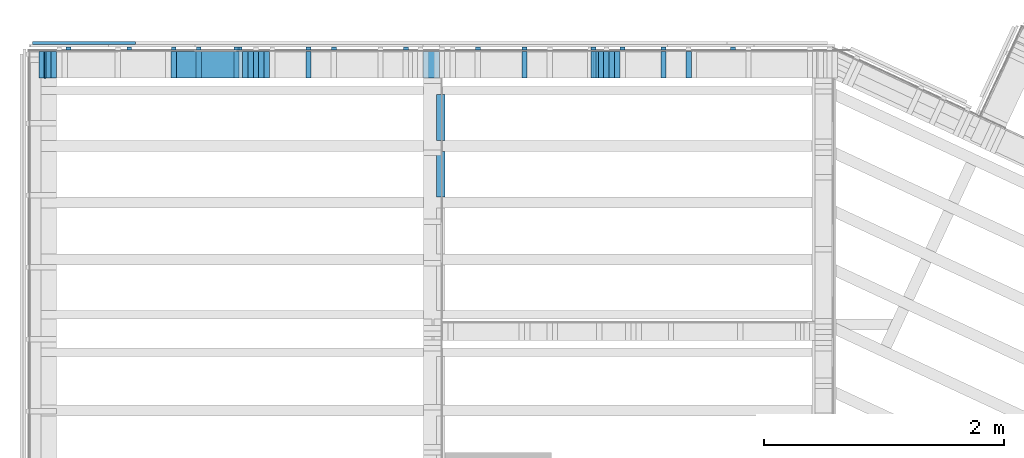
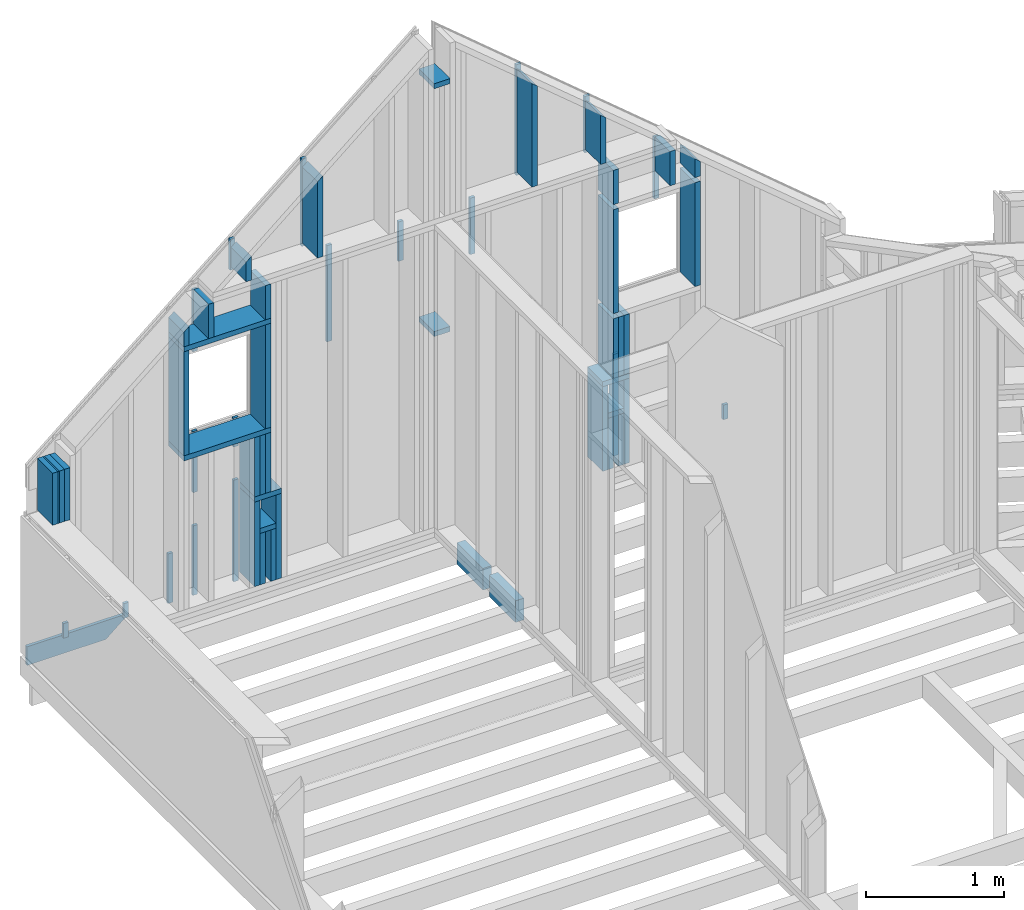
# One storey, part 19 of 24: 61 members.
"""IFC2X3 building model written with IfcOpenShell, lengths in metres."""

from ifc_helpers import new_model, si_unit, direction, frame, origin_with_axes, place, context, subcontext, project, spatial, faceted_brep, material, element, save


model = new_model("IFC2X3")

# Units and contexts
model_context = context("Model", 3, precision=1e-06, world=origin_with_axes(), true_north=direction((0.0, 1.0, 0.0)))
body_context = subcontext(model_context, "Body", "Model", "MODEL_VIEW")
ifc_project = project(units=[si_unit("LENGTHUNIT", "METRE"), si_unit("AREAUNIT", "SQUARE_METRE"), si_unit("VOLUMEUNIT", "CUBIC_METRE"), si_unit("PLANEANGLEUNIT", "RADIAN")], contexts=[model_context])

# Site, building, storey
site_placement = place(None, origin_with_axes())
site = spatial("IfcSite", under=ifc_project, at=site_placement, CompositionType="ELEMENT")
building_placement = place(site_placement, origin_with_axes())
building = spatial("IfcBuilding", under=site, at=building_placement, Name="Building 1", CompositionType="ELEMENT")
storey_placement = place(building_placement, origin_with_axes())
storey = spatial("IfcBuildingStorey", under=building, at=storey_placement, Name="Premier Etage", CompositionType="ELEMENT", Elevation=0.0)

# Members
ifc_material_1 = material(Name="NH II")
member_1_placement = place(storey_placement, frame((3.433, 7.537, 2.709), z_axis=(0.0, 0.0, -1.0), x_axis=(0.0, -1.0, 0.0)))
element("IfcMember", 1, at=member_1_placement, inside=storey, material=ifc_material_1, Name="Solive", context=body_context, shape_type="Brep", body=[
    faceted_brep([(0.3809456, 0.035, -0.096), (0.3809456, 0.035, 0.096), (0.3809456, -0.035, 0.096), (0.3809456, -0.035, -0.096), (0.0, 0.035, 0.096), (0.0, -0.035, 0.096), (0.0, 0.035, -0.096), (0.0, -0.035, -0.096)], [[[0, 1, 2, 3]], [[2, 1, 4, 5]], [[1, 0, 6, 4]], [[0, 3, 7, 6]], [[3, 2, 5, 7]], [[7, 5, 4, 6]]]),
])
member_2_placement = place(storey_placement, frame((0.032, 7.9675, 2.7225), z_axis=(0.0, 0.0, -1.0), x_axis=(1.0, 0.0, 0.0)))
element("IfcMember", 2, at=member_2_placement, inside=storey, material=ifc_material_1, Name="contre poutre", context=body_context, shape_type="Brep", body=[
    faceted_brep([(0.8586597, 0.0135, -0.0825), (0.6620204, 0.0135, 0.0825), (0.6620204, -0.0135, 0.0825), (0.8586597, -0.0135, -0.0825), (0.0, 0.0135, 0.0825), (0.0, -0.0135, 0.0825), (0.0, 0.0135, -0.0825), (0.0, -0.0135, -0.0825)], [[[0, 1, 2, 3]], [[2, 1, 4, 5]], [[1, 0, 6, 4]], [[0, 3, 7, 6]], [[4, 6, 7, 5]], [[3, 2, 5, 7]]]),
])
ifc_material_2 = material(Name="Epicéa C24")
member_3_placement = place(storey_placement, frame((4.949, 7.921, 3.7126531), z_axis=(0.0, 1.0, 0.0), x_axis=(0.0, 0.0, -1.0)))
element("IfcMember", 3, at=member_3_placement, inside=storey, material=ifc_material_2, Name="latte 27/40", context=body_context, shape_type="Brep", body=[
    faceted_brep([(0.0, 0.02, -0.012), (0.0, -0.02, -0.012), (0.0, -0.02, 0.012), (0.0, 0.02, 0.012), (0.9026531, -0.02, -0.012), (0.9026531, -0.02, 0.012), (0.9026531, 0.02, -0.012), (0.9026531, 0.02, 0.012)], [[[0, 1, 2, 3]], [[2, 1, 4, 5]], [[1, 0, 6, 4]], [[6, 7, 5, 4]], [[3, 2, 5, 7]], [[0, 3, 7, 6]]]),
])
member_4_placement = place(storey_placement, frame((1.9165, 7.786, 5.2085), z_axis=(0.0, 1.0, 0.0), x_axis=(-1.0, 0.0, 0.0)))
element("IfcMember", 4, at=member_4_placement, inside=storey, material=ifc_material_2, Name="Montant", context=body_context, shape_type="Brep", body=[
    faceted_brep([(0.73, -0.0225, -0.11), (0.73, 0.0225, -0.11), (0.73, 0.0225, 0.11), (0.73, -0.0225, 0.11), (0.0, 0.0225, 0.11), (0.0, -0.0225, 0.11), (0.0, 0.0225, -0.11), (0.0, -0.0225, -0.11)], [[[0, 1, 2, 3]], [[3, 2, 4, 5]], [[2, 1, 6, 4]], [[6, 7, 5, 4]], [[0, 3, 5, 7]], [[1, 0, 7, 6]]]),
])
member_5_placement = place(storey_placement, frame((0.1075, 7.786, 4.4950187), z_axis=(0.0, 1.0, 0.0), x_axis=(0.0, 0.0, -1.0)))
element("IfcMember", 5, at=member_5_placement, inside=storey, material=ifc_material_2, Name="Montant", context=body_context, shape_type="Brep", body=[
    faceted_brep([(0.0, 0.0225, -0.11), (0.0, -0.0225, -0.11), (0.0, -0.0225, 0.11), (0.0, 0.0225, 0.11), (0.4622036, -0.0225, -0.11), (0.4622036, -0.0225, 0.11), (0.4622036, 0.0225, -0.11), (0.4622036, 0.0225, 0.11)], [[[0, 1, 2, 3]], [[2, 1, 4, 5]], [[1, 0, 6, 4]], [[0, 3, 7, 6]], [[3, 2, 5, 7]], [[4, 6, 7, 5]]]),
])
member_6_placement = place(storey_placement, frame((3.433, 7.0640544, 2.709), z_axis=(0.0, 0.0, -1.0), x_axis=(0.0, -1.0, 0.0)))
element("IfcMember", 6, at=member_6_placement, inside=storey, material=ifc_material_1, Name="Solive", context=body_context, shape_type="Brep", body=[
    faceted_brep([(0.3809456, 0.035, -0.096), (0.3809456, 0.035, 0.096), (0.3809456, -0.035, 0.096), (0.3809456, -0.035, -0.096), (0.0, 0.035, 0.096), (0.0, -0.035, 0.096), (0.0, 0.035, -0.096), (0.0, -0.035, -0.096)], [[[0, 1, 2, 3]], [[2, 1, 4, 5]], [[1, 0, 6, 4]], [[0, 3, 7, 6]], [[3, 2, 5, 7]], [[7, 5, 4, 6]]]),
])
member_7_placement = place(storey_placement, frame((1.759, 7.921, 4.263), z_axis=(0.0, 1.0, 0.0), x_axis=(0.0, 0.0, -1.0)))
element("IfcMember", 7, at=member_7_placement, inside=storey, material=ifc_material_2, Name="latte 27/40", context=body_context, shape_type="Brep", body=[
    faceted_brep([(0.0, 0.02, -0.012), (0.0, -0.02, -0.012), (0.0, -0.02, 0.012), (0.0, 0.02, 0.012), (0.2557014, -0.02, -0.012), (0.2557014, -0.02, 0.012), (0.2557014, 0.02, -0.012), (0.2557014, 0.02, 0.012)], [[[0, 1, 2, 3]], [[2, 1, 4, 5]], [[1, 0, 6, 4]], [[6, 7, 5, 4]], [[3, 2, 5, 7]], [[0, 3, 7, 6]]]),
])
member_8_placement = place(storey_placement, frame((4.1312452, 7.921, 6.5689307), z_axis=(0.0, 1.0, 0.0), x_axis=(0.0, 0.0, -1.0)))
element("IfcMember", 8, at=member_8_placement, inside=storey, material=ifc_material_2, Name="latte 27/40", context=body_context, shape_type="Brep", body=[
    faceted_brep([(0.9834594, 0.02, -0.012), (0.9834594, 0.02, 0.012), (0.9834594, -0.02, 0.012), (0.9834594, -0.02, -0.012), (0.0, 0.02, 0.012), (0.0, 0.02, -0.012), (0.0, -0.02, -0.012), (0.0, -0.02, 0.012)], [[[0, 1, 2, 3]], [[4, 5, 6, 7]], [[3, 6, 5, 0]], [[2, 7, 6, 3]], [[1, 4, 7, 2]], [[0, 5, 4, 1]]]),
])
member_9_placement = place(storey_placement, frame((1.209, 7.921, 3.2511483), z_axis=(0.0, 1.0, 0.0), x_axis=(0.0, 0.0, -1.0)))
element("IfcMember", 9, at=member_9_placement, inside=storey, material=ifc_material_2, Name="latte 27/40", context=body_context, shape_type="Brep", body=[
    faceted_brep([(0.0, 0.02, -0.012), (0.0, -0.02, -0.012), (0.0, -0.02, 0.012), (0.0, 0.02, 0.012), (0.4411483, -0.02, -0.012), (0.4411483, -0.02, 0.012), (0.4411483, 0.02, -0.012), (0.4411483, 0.02, 0.012)], [[[0, 1, 2, 3]], [[2, 1, 4, 5]], [[1, 0, 6, 4]], [[6, 7, 5, 4]], [[3, 2, 5, 7]], [[0, 3, 7, 6]]]),
])
member_10_placement = place(storey_placement, frame((4.724, 7.786, 3.645661), z_axis=(0.0, 1.0, 0.0), x_axis=(0.0, 0.0, -1.0)))
element("IfcMember", 10, at=member_10_placement, inside=storey, material=ifc_material_2, Name="Montant", context=body_context, shape_type="Brep", body=[
    faceted_brep([(0.0, -0.0225, -0.11), (0.0, -0.0225, 0.11), (0.0, 0.0225, 0.11), (0.0, 0.0225, -0.11), (0.750661, 0.0225, -0.11), (0.750661, -0.0225, -0.11), (0.750661, -0.0225, 0.11), (0.750661, 0.0225, 0.11)], [[[0, 1, 2, 3]], [[0, 3, 4, 5]], [[1, 0, 5, 6]], [[2, 1, 6, 7]], [[5, 4, 7, 6]], [[3, 2, 7, 4]]]),
])
member_11_placement = place(storey_placement, frame((4.7067452, 7.921, 6.0860288), z_axis=(0.0, 1.0, 0.0), x_axis=(0.0, 0.0, -1.0)))
element("IfcMember", 11, at=member_11_placement, inside=storey, material=ifc_material_2, Name="latte 27/40", context=body_context, shape_type="Brep", body=[
    faceted_brep([(0.5005575, 0.02, -0.012), (0.5005575, 0.02, 0.012), (0.5005575, -0.02, 0.012), (0.5005575, -0.02, -0.012), (0.0, 0.02, 0.012), (0.0, 0.02, -0.012), (0.0, -0.02, -0.012), (0.0, -0.02, 0.012)], [[[0, 1, 2, 3]], [[4, 5, 6, 7]], [[3, 6, 5, 0]], [[2, 7, 6, 3]], [[1, 4, 7, 2]], [[0, 5, 4, 1]]]),
])
member_12_placement = place(storey_placement, frame((2.3312452, 7.786, 6.3399786), z_axis=(0.0, 1.0, 0.0), x_axis=(0.0, 0.0, -1.0)))
element("IfcMember", 12, at=member_12_placement, inside=storey, material=ifc_material_2, Name="Montant", context=body_context, shape_type="Brep", body=[
    faceted_brep([(0.0, -0.0225, 0.11), (0.0, -0.0225, -0.11), (0.7145073, -0.0225, -0.11), (0.7145073, -0.0225, 0.11), (0.0377595, 0.0225, 0.11), (0.7145073, 0.0225, 0.11), (0.0377595, 0.0225, -0.11), (0.7145073, 0.0225, -0.11)], [[[0, 1, 2, 3]], [[4, 0, 3, 5]], [[6, 4, 5, 7]], [[1, 6, 7, 2]], [[1, 0, 4, 6]], [[2, 7, 5, 3]]]),
])
member_13_placement = place(storey_placement, frame((1.209, 7.786, 5.3983031), z_axis=(0.0, 1.0, 0.0), x_axis=(0.0, 0.0, -1.0)))
element("IfcMember", 13, at=member_13_placement, inside=storey, material=ifc_material_2, Name="Montant", context=body_context, shape_type="Brep", body=[
    faceted_brep([(0.0, -0.0225, 0.11), (0.0, -0.0225, -0.11), (0.1673031, -0.0225, -0.11), (0.1673031, -0.0225, 0.11), (0.0377595, 0.0225, -0.11), (0.1673031, 0.0225, -0.11), (0.0377595, 0.0225, 0.11), (0.1673031, 0.0225, 0.11)], [[[0, 1, 2, 3]], [[1, 4, 5, 2]], [[4, 6, 7, 5]], [[2, 5, 7, 3]], [[6, 0, 3, 7]], [[0, 6, 4, 1]]]),
])
member_14_placement = place(storey_placement, frame((2.3312452, 7.921, 6.3630602), z_axis=(0.0, 1.0, 0.0), x_axis=(0.0, 0.0, -1.0)))
element("IfcMember", 14, at=member_14_placement, inside=storey, material=ifc_material_2, Name="latte 27/40", context=body_context, shape_type="Brep", body=[
    faceted_brep([(0.7775889, 0.02, -0.012), (0.7775889, 0.02, 0.012), (0.7775889, -0.02, 0.012), (0.7775889, -0.02, -0.012), (0.0, 0.02, 0.012), (0.0, 0.02, -0.012), (0.0, -0.02, -0.012), (0.0, -0.02, 0.012)], [[[0, 1, 2, 3]], [[4, 5, 6, 7]], [[3, 6, 5, 0]], [[2, 7, 6, 3]], [[1, 4, 7, 2]], [[0, 5, 4, 1]]]),
])
member_15_placement = place(storey_placement, frame((4.769, 7.786, 3.350661), z_axis=(0.0, 1.0, 0.0), x_axis=(0.0, 0.0, -1.0)))
element("IfcMember", 15, at=member_15_placement, inside=storey, material=ifc_material_2, Name="Montant", context=body_context, shape_type="Brep", body=[
    faceted_brep([(0.0, -0.0225, -0.11), (0.0, -0.0225, 0.11), (0.0, 0.0225, 0.11), (0.0, 0.0225, -0.11), (0.455661, 0.0225, -0.11), (0.455661, -0.0225, -0.11), (0.455661, -0.0225, 0.11), (0.455661, 0.0225, 0.11)], [[[0, 1, 2, 3]], [[0, 3, 4, 5]], [[1, 0, 5, 6]], [[5, 4, 7, 6]], [[3, 2, 7, 4]], [[2, 1, 6, 7]]]),
])
member_16_placement = place(storey_placement, frame((1.804, 7.786, 4.218), z_axis=(0.0, 1.0, 0.0), x_axis=(0.0, 0.0, -1.0)))
element("IfcMember", 16, at=member_16_placement, inside=storey, material=ifc_material_2, Name="Montant", context=body_context, shape_type="Brep", body=[
    faceted_brep([(0.527339, 0.0225, -0.11), (0.527339, 0.0225, 0.11), (0.527339, -0.0225, 0.11), (0.527339, -0.0225, -0.11), (0.0, 0.0225, 0.11), (0.0, -0.0225, 0.11), (0.0, 0.0225, -0.11), (0.0, -0.0225, -0.11)], [[[0, 1, 2, 3]], [[2, 1, 4, 5]], [[1, 0, 6, 4]], [[0, 3, 7, 6]], [[3, 2, 5, 7]], [[5, 4, 6, 7]]]),
])
member_17_placement = place(storey_placement, frame((1.9615, 7.786, 3.373161), z_axis=(0.0, 1.0, 0.0), x_axis=(-1.0, 0.0, 0.0)))
element("IfcMember", 17, at=member_17_placement, inside=storey, material=ifc_material_2, Name="Montant", context=body_context, shape_type="Brep", body=[
    faceted_brep([(0.0, -0.0225, 0.11), (0.0, 0.0225, 0.11), (0.0, 0.0225, -0.11), (0.0, -0.0225, -0.11), (0.135, 0.0225, 0.11), (0.135, 0.0225, -0.11), (0.135, -0.0225, 0.11), (0.135, -0.0225, -0.11)], [[[0, 1, 2, 3]], [[2, 1, 4, 5]], [[1, 0, 6, 4]], [[7, 5, 4, 6]], [[0, 3, 7, 6]], [[3, 2, 5, 7]]]),
])
member_18_placement = place(storey_placement, frame((1.4174707, 7.786, 5.5354713), z_axis=(0.0, 1.0, 0.0), x_axis=(0.0, 0.0, -1.0)))
element("IfcMember", 18, at=member_18_placement, inside=storey, material=ifc_material_2, Name="Montant", context=body_context, shape_type="Brep", body=[
    faceted_brep([(0.0, 0.0225, -0.11), (0.0, -0.0225, -0.11), (0.0, -0.0225, 0.11), (0.0, 0.0225, 0.11), (0.3044713, -0.0225, -0.11), (0.3044713, -0.0225, 0.11), (0.3044713, 0.0225, -0.11), (0.3044713, 0.0225, 0.11)], [[[0, 1, 2, 3]], [[2, 1, 4, 5]], [[1, 0, 6, 4]], [[0, 3, 7, 6]], [[3, 2, 5, 7]], [[6, 7, 5, 4]]]),
])
member_19_placement = place(storey_placement, frame((0.136, 7.786, 4.4950187), z_axis=(0.0, 1.0, 0.0), x_axis=(0.0, 0.0, -1.0)))
element("IfcMember", 19, at=member_19_placement, inside=storey, material=ifc_material_2, Name="Montant", context=body_context, shape_type="Brep", body=[
    faceted_brep([(0.0, 0.006, 0.11), (0.0, 0.006, -0.11), (0.0, -0.006, -0.11), (0.0, -0.006, 0.11), (0.4622036, 0.006, -0.11), (0.4622036, -0.006, -0.11), (0.4622036, 0.006, 0.11), (0.4622036, -0.006, 0.11)], [[[0, 1, 2, 3]], [[2, 1, 4, 5]], [[1, 0, 6, 4]], [[4, 6, 7, 5]], [[0, 3, 7, 6]], [[3, 2, 5, 7]]]),
])
member_20_placement = place(storey_placement, frame((2.0065, 7.786, 3.668161), z_axis=(0.0, 1.0, 0.0), x_axis=(-1.0, 0.0, 0.0)))
element("IfcMember", 20, at=member_20_placement, inside=storey, material=ifc_material_2, Name="Montant", context=body_context, shape_type="Brep", body=[
    faceted_brep([(0.225, -0.0225, -0.11), (0.225, 0.0225, -0.11), (0.225, 0.0225, 0.11), (0.225, -0.0225, 0.11), (0.0, 0.0225, 0.11), (0.0, -0.0225, 0.11), (0.0, 0.0225, -0.11), (0.0, -0.0225, -0.11)], [[[0, 1, 2, 3]], [[3, 2, 4, 5]], [[2, 1, 6, 4]], [[6, 7, 5, 4]], [[0, 3, 5, 7]], [[1, 0, 7, 6]]]),
])
member_21_placement = place(storey_placement, frame((1.939, 7.786, 3.350661), z_axis=(0.0, 1.0, 0.0), x_axis=(0.0, 0.0, -1.0)))
element("IfcMember", 21, at=member_21_placement, inside=storey, material=ifc_material_2, Name="Montant", context=body_context, shape_type="Brep", body=[
    faceted_brep([(0.0, -0.0225, -0.11), (0.0, -0.0225, 0.11), (0.0, 0.0225, 0.11), (0.0, 0.0225, -0.11), (0.455661, 0.0225, -0.11), (0.455661, -0.0225, -0.11), (0.455661, -0.0225, 0.11), (0.455661, 0.0225, 0.11)], [[[0, 1, 2, 3]], [[0, 3, 4, 5]], [[1, 0, 5, 6]], [[5, 4, 7, 6]], [[3, 2, 7, 4]], [[2, 1, 6, 7]]]),
])
member_22_placement = place(storey_placement, frame((1.9165, 7.786, 4.2405), z_axis=(0.0, 1.0, 0.0), x_axis=(-1.0, 0.0, 0.0)))
element("IfcMember", 22, at=member_22_placement, inside=storey, material=ifc_material_2, Name="Montant", context=body_context, shape_type="Brep", body=[
    faceted_brep([(0.73, -0.0225, -0.11), (0.73, 0.0225, -0.11), (0.73, 0.0225, 0.11), (0.73, -0.0225, 0.11), (0.0, 0.0225, 0.11), (0.0, -0.0225, 0.11), (0.0, 0.0225, -0.11), (0.0, -0.0225, -0.11)], [[[0, 1, 2, 3]], [[3, 2, 4, 5]], [[2, 1, 6, 4]], [[6, 7, 5, 4]], [[0, 3, 5, 7]], [[1, 0, 7, 6]]]),
])
member_23_placement = place(storey_placement, frame((1.894, 7.786, 5.5354713), z_axis=(0.0, 1.0, 0.0), x_axis=(0.0, 0.0, -1.0)))
element("IfcMember", 23, at=member_23_placement, inside=storey, material=ifc_material_2, Name="Montant", context=body_context, shape_type="Brep", body=[
    faceted_brep([(0.0, 0.0225, -0.11), (0.0, -0.0225, -0.11), (0.0, -0.0225, 0.11), (0.0, 0.0225, 0.11), (0.3044713, -0.0225, -0.11), (0.3044713, -0.0225, 0.11), (0.3044713, 0.0225, -0.11), (0.3044713, 0.0225, 0.11)], [[[0, 1, 2, 3]], [[2, 1, 4, 5]], [[1, 0, 6, 4]], [[0, 3, 7, 6]], [[3, 2, 5, 7]], [[6, 7, 5, 4]]]),
])
member_24_placement = place(storey_placement, frame((1.894, 7.786, 5.186), z_axis=(0.0, 1.0, 0.0), x_axis=(0.0, 0.0, -1.0)))
element("IfcMember", 24, at=member_24_placement, inside=storey, material=ifc_material_2, Name="Montant", context=body_context, shape_type="Brep", body=[
    faceted_brep([(0.923, -0.0225, -0.11), (0.923, 0.0225, -0.11), (0.923, 0.0225, 0.11), (0.923, -0.0225, 0.11), (0.0, 0.0225, -0.11), (0.0, 0.0225, 0.11), (0.0, -0.0225, -0.11), (0.0, -0.0225, 0.11)], [[[0, 1, 2, 3]], [[2, 1, 4, 5]], [[1, 0, 6, 4]], [[0, 3, 7, 6]], [[3, 2, 5, 7]], [[7, 5, 4, 6]]]),
])
member_25_placement = place(storey_placement, frame((1.759, 7.921, 3.7126531), z_axis=(0.0, 1.0, 0.0), x_axis=(0.0, 0.0, -1.0)))
element("IfcMember", 25, at=member_25_placement, inside=storey, material=ifc_material_2, Name="latte 27/40", context=body_context, shape_type="Brep", body=[
    faceted_brep([(0.0, 0.02, -0.012), (0.0, -0.02, -0.012), (0.0, -0.02, 0.012), (0.0, 0.02, 0.012), (0.9026531, -0.02, -0.012), (0.9026531, -0.02, 0.012), (0.9026531, 0.02, -0.012), (0.9026531, 0.02, 0.012)], [[[0, 1, 2, 3]], [[2, 1, 4, 5]], [[1, 0, 6, 4]], [[6, 7, 5, 4]], [[3, 2, 5, 7]], [[0, 3, 7, 6]]]),
])
member_26_placement = place(storey_placement, frame((0.1645, 7.786, 4.4950187), z_axis=(0.0, 1.0, 0.0), x_axis=(0.0, 0.0, -1.0)))
element("IfcMember", 26, at=member_26_placement, inside=storey, material=ifc_material_2, Name="Montant", context=body_context, shape_type="Brep", body=[
    faceted_brep([(0.0, 0.0225, -0.11), (0.0, -0.0225, -0.11), (0.0, -0.0225, 0.11), (0.0, 0.0225, 0.11), (0.4622036, -0.0225, -0.11), (0.4622036, -0.0225, 0.11), (0.4622036, 0.0225, -0.11), (0.4622036, 0.0225, 0.11)], [[[0, 1, 2, 3]], [[2, 1, 4, 5]], [[1, 0, 6, 4]], [[0, 3, 7, 6]], [[3, 2, 5, 7]], [[4, 6, 7, 5]]]),
])
member_27_placement = place(storey_placement, frame((5.2903666, 7.786, 5.5354713), z_axis=(0.0, 1.0, 0.0), x_axis=(0.0, 0.0, -1.0)))
element("IfcMember", 27, at=member_27_placement, inside=storey, material=ifc_material_2, Name="Montant", context=body_context, shape_type="Brep", body=[
    faceted_brep([(0.0, 0.0225, -0.11), (0.0, -0.0225, -0.11), (0.0, -0.0225, 0.11), (0.0, 0.0225, 0.11), (0.3044713, -0.0225, -0.11), (0.3044713, -0.0225, 0.11), (0.3044713, 0.0225, -0.11), (0.3044713, 0.0225, 0.11)], [[[0, 1, 2, 3]], [[2, 1, 4, 5]], [[1, 0, 6, 4]], [[0, 3, 7, 6]], [[3, 2, 5, 7]], [[6, 7, 5, 4]]]),
])
member_28_placement = place(storey_placement, frame((0.3321151, 7.921, 2.94), z_axis=(0.0, 1.0, 0.0), x_axis=(0.0, 0.0, -1.0)))
element("IfcMember", 28, at=member_28_placement, inside=storey, material=ifc_material_2, Name="latte 27/40", context=body_context, shape_type="Brep", body=[
    faceted_brep([(0.0, 0.02, -0.012), (0.0, -0.02, -0.012), (0.0, -0.02, 0.012), (0.0, 0.02, 0.012), (0.13, -0.02, -0.012), (0.13, -0.02, 0.012), (0.13, 0.02, -0.012), (0.13, 0.02, 0.012)], [[[0, 1, 2, 3]], [[2, 1, 4, 5]], [[1, 0, 6, 4]], [[6, 7, 5, 4]], [[3, 2, 5, 7]], [[0, 3, 7, 6]]]),
])
member_29_placement = place(storey_placement, frame((5.499, 7.786, 5.3981666), z_axis=(0.0, 1.0, 0.0), x_axis=(0.0, 0.0, -1.0)))
element("IfcMember", 29, at=member_29_placement, inside=storey, material=ifc_material_2, Name="Montant", context=body_context, shape_type="Brep", body=[
    faceted_brep([(0.0, 0.0225, 0.11), (0.0, 0.0225, -0.11), (0.0377595, -0.0225, -0.11), (0.0377595, -0.0225, 0.11), (0.1671666, 0.0225, -0.11), (0.1671666, -0.0225, -0.11), (0.1671666, 0.0225, 0.11), (0.1671666, -0.0225, 0.11)], [[[0, 1, 2, 3]], [[2, 1, 4, 5]], [[1, 0, 6, 4]], [[3, 2, 5, 7]], [[5, 4, 6, 7]], [[0, 3, 7, 6]]]),
])
member_30_placement = place(storey_placement, frame((1.7312452, 7.786, 5.8365189), z_axis=(0.0, 1.0, 0.0), x_axis=(0.0, 0.0, -1.0)))
element("IfcMember", 30, at=member_30_placement, inside=storey, material=ifc_material_2, Name="Montant", context=body_context, shape_type="Brep", body=[
    faceted_brep([(0.0, -0.0225, 0.11), (0.0, -0.0225, -0.11), (0.2110476, -0.0225, -0.11), (0.2110476, -0.0225, 0.11), (0.2110476, 0.0225, 0.11), (0.0377595, 0.0225, 0.11), (0.0377595, 0.0225, -0.11), (0.2110476, 0.0225, -0.11)], [[[0, 1, 2, 3]], [[3, 4, 5, 0]], [[6, 5, 4, 7]], [[1, 6, 7, 2]], [[1, 0, 5, 6]], [[2, 7, 4, 3]]]),
])
member_31_placement = place(storey_placement, frame((1.804, 7.786, 3.645661), z_axis=(0.0, 1.0, 0.0), x_axis=(0.0, 0.0, -1.0)))
element("IfcMember", 31, at=member_31_placement, inside=storey, material=ifc_material_2, Name="Montant", context=body_context, shape_type="Brep", body=[
    faceted_brep([(0.0, -0.0225, -0.11), (0.0, -0.0225, 0.11), (0.0, 0.0225, 0.11), (0.0, 0.0225, -0.11), (0.750661, 0.0225, -0.11), (0.750661, -0.0225, -0.11), (0.750661, -0.0225, 0.11), (0.750661, 0.0225, 0.11)], [[[0, 1, 2, 3]], [[0, 3, 4, 5]], [[1, 0, 5, 6]], [[2, 1, 6, 7]], [[5, 4, 7, 6]], [[3, 2, 7, 4]]]),
])
member_32_placement = place(storey_placement, frame((0.8381879, 7.921, 2.94), z_axis=(0.0, 1.0, 0.0), x_axis=(0.0, 0.0, -1.0)))
element("IfcMember", 32, at=member_32_placement, inside=storey, material=ifc_material_2, Name="latte 27/40", context=body_context, shape_type="Brep", body=[
    faceted_brep([(0.0, 0.02, -0.012), (0.0, -0.02, -0.012), (0.0, -0.02, 0.012), (0.0, 0.02, 0.012), (0.13, -0.02, -0.012), (0.13, -0.02, 0.012), (0.13, 0.02, -0.012), (0.13, 0.02, 0.012)], [[[0, 1, 2, 3]], [[2, 1, 4, 5]], [[1, 0, 6, 4]], [[6, 7, 5, 4]], [[3, 2, 5, 7]], [[0, 3, 7, 6]]]),
])
member_33_placement = place(storey_placement, frame((1.209, 7.786, 5.186), z_axis=(0.0, 1.0, 0.0), x_axis=(0.0, 0.0, -1.0)))
element("IfcMember", 33, at=member_33_placement, inside=storey, material=ifc_material_2, Name="Montant", context=body_context, shape_type="Brep", body=[
    faceted_brep([(0.923, -0.0225, -0.11), (0.923, 0.0225, -0.11), (0.923, 0.0225, 0.11), (0.923, -0.0225, 0.11), (0.0, 0.0225, -0.11), (0.0, 0.0225, 0.11), (0.0, -0.0225, -0.11), (0.0, -0.0225, 0.11)], [[[0, 1, 2, 3]], [[2, 1, 4, 5]], [[1, 0, 6, 4]], [[0, 3, 7, 6]], [[3, 2, 5, 7]], [[7, 5, 4, 6]]]),
])
member_34_placement = place(storey_placement, frame((3.1431423, 7.921, 5.5204713), z_axis=(0.0, 1.0, 0.0), x_axis=(0.0, 0.0, -1.0)))
element("IfcMember", 34, at=member_34_placement, inside=storey, material=ifc_material_2, Name="latte 27/40", context=body_context, shape_type="Brep", body=[
    faceted_brep([(0.3517394, -0.02, -0.012), (0.3517394, 0.02, -0.012), (0.3517394, 0.02, 0.012), (0.3517394, -0.02, 0.012), (0.0, 0.02, -0.012), (0.0, 0.02, 0.012), (0.0, -0.02, -0.012), (0.0, -0.02, 0.012)], [[[0, 1, 2, 3]], [[2, 1, 4, 5]], [[1, 0, 6, 4]], [[5, 4, 6, 7]], [[0, 3, 7, 6]], [[3, 2, 5, 7]]]),
])
member_35_placement = place(storey_placement, frame((1.894, 7.786, 4.218), z_axis=(0.0, 1.0, 0.0), x_axis=(0.0, 0.0, -1.0)))
element("IfcMember", 35, at=member_35_placement, inside=storey, material=ifc_material_2, Name="Montant", context=body_context, shape_type="Brep", body=[
    faceted_brep([(0.527339, 0.0225, -0.11), (0.527339, 0.0225, 0.11), (0.527339, -0.0225, 0.11), (0.527339, -0.0225, -0.11), (0.0, 0.0225, 0.11), (0.0, -0.0225, 0.11), (0.0, 0.0225, -0.11), (0.0, -0.0225, -0.11)], [[[0, 1, 2, 3]], [[2, 1, 4, 5]], [[1, 0, 6, 4]], [[0, 3, 7, 6]], [[3, 2, 5, 7]], [[5, 4, 6, 7]]]),
])
member_36_placement = place(storey_placement, frame((5.8698121, 7.921, 2.94), z_axis=(0.0, 1.0, 0.0), x_axis=(0.0, 0.0, -1.0)))
element("IfcMember", 36, at=member_36_placement, inside=storey, material=ifc_material_2, Name="latte 27/40", context=body_context, shape_type="Brep", body=[
    faceted_brep([(0.0, 0.02, -0.012), (0.0, -0.02, -0.012), (0.0, -0.02, 0.012), (0.0, 0.02, 0.012), (0.13, -0.02, -0.012), (0.13, -0.02, 0.012), (0.13, 0.02, -0.012), (0.13, 0.02, 0.012)], [[[0, 1, 2, 3]], [[2, 1, 4, 5]], [[1, 0, 6, 4]], [[6, 7, 5, 4]], [[3, 2, 5, 7]], [[0, 3, 7, 6]]]),
])
member_37_placement = place(storey_placement, frame((0.2095, 7.786, 4.4950187), z_axis=(0.0, 1.0, 0.0), x_axis=(0.0, 0.0, -1.0)))
element("IfcMember", 37, at=member_37_placement, inside=storey, material=ifc_material_2, Name="Montant", context=body_context, shape_type="Brep", body=[
    faceted_brep([(0.0, 0.0225, -0.11), (0.0, -0.0225, -0.11), (0.0, -0.0225, 0.11), (0.0, 0.0225, 0.11), (0.4622036, -0.0225, -0.11), (0.4622036, -0.0225, 0.11), (0.4622036, 0.0225, -0.11), (0.4622036, 0.0225, 0.11)], [[[0, 1, 2, 3]], [[2, 1, 4, 5]], [[1, 0, 6, 4]], [[0, 3, 7, 6]], [[3, 2, 5, 7]], [[4, 6, 7, 5]]]),
])
member_38_placement = place(storey_placement, frame((4.7067452, 7.786, 6.0629472), z_axis=(0.0, 1.0, 0.0), x_axis=(0.0, 0.0, -1.0)))
element("IfcMember", 38, at=member_38_placement, inside=storey, material=ifc_material_2, Name="Montant", context=body_context, shape_type="Brep", body=[
    faceted_brep([(0.0377595, -0.0225, 0.11), (0.0377595, -0.0225, -0.11), (0.4374759, -0.0225, -0.11), (0.4374759, -0.0225, 0.11), (0.0, 0.0225, 0.11), (0.4374759, 0.0225, 0.11), (0.0, 0.0225, -0.11), (0.4374759, 0.0225, -0.11)], [[[0, 1, 2, 3]], [[4, 0, 3, 5]], [[6, 4, 5, 7]], [[1, 6, 7, 2]], [[1, 0, 4, 6]], [[2, 7, 5, 3]]]),
])
member_39_placement = place(storey_placement, frame((1.849, 7.786, 4.218), z_axis=(0.0, 1.0, 0.0), x_axis=(0.0, 0.0, -1.0)))
element("IfcMember", 39, at=member_39_placement, inside=storey, material=ifc_material_2, Name="Montant", context=body_context, shape_type="Brep", body=[
    faceted_brep([(0.527339, 0.0225, -0.11), (0.527339, 0.0225, 0.11), (0.527339, -0.0225, 0.11), (0.527339, -0.0225, -0.11), (0.0, 0.0225, 0.11), (0.0, -0.0225, 0.11), (0.0, 0.0225, -0.11), (0.0, -0.0225, -0.11)], [[[0, 1, 2, 3]], [[2, 1, 4, 5]], [[1, 0, 6, 4]], [[0, 3, 7, 6]], [[3, 2, 5, 7]], [[5, 4, 6, 7]]]),
])
member_40_placement = place(storey_placement, frame((1.7312452, 7.921, 5.8596005), z_axis=(0.0, 1.0, 0.0), x_axis=(0.0, 0.0, -1.0)))
element("IfcMember", 40, at=member_40_placement, inside=storey, material=ifc_material_2, Name="latte 27/40", context=body_context, shape_type="Brep", body=[
    faceted_brep([(0.2741291, 0.02, -0.012), (0.2741291, 0.02, 0.012), (0.2741291, -0.02, 0.012), (0.2741291, -0.02, -0.012), (0.0, 0.02, 0.012), (0.0, 0.02, -0.012), (0.0, -0.02, -0.012), (0.0, -0.02, 0.012)], [[[0, 1, 2, 3]], [[4, 5, 6, 7]], [[3, 6, 5, 0]], [[2, 7, 6, 3]], [[1, 4, 7, 2]], [[0, 5, 4, 1]]]),
])
member_41_placement = place(storey_placement, frame((4.814, 7.786, 5.5354713), z_axis=(0.0, 1.0, 0.0), x_axis=(0.0, 0.0, -1.0)))
element("IfcMember", 41, at=member_41_placement, inside=storey, material=ifc_material_2, Name="Montant", context=body_context, shape_type="Brep", body=[
    faceted_brep([(0.0, 0.0225, -0.11), (0.0, -0.0225, -0.11), (0.0, -0.0225, 0.11), (0.0, 0.0225, 0.11), (0.3044713, -0.0225, -0.11), (0.3044713, -0.0225, 0.11), (0.3044713, 0.0225, -0.11), (0.3044713, 0.0225, 0.11)], [[[0, 1, 2, 3]], [[2, 1, 4, 5]], [[1, 0, 6, 4]], [[0, 3, 7, 6]], [[3, 2, 5, 7]], [[6, 7, 5, 4]]]),
])
member_42_placement = place(storey_placement, frame((2.5431423, 7.921, 5.5204713), z_axis=(0.0, 1.0, 0.0), x_axis=(0.0, 0.0, -1.0)))
element("IfcMember", 42, at=member_42_placement, inside=storey, material=ifc_material_2, Name="latte 27/40", context=body_context, shape_type="Brep", body=[
    faceted_brep([(0.8551992, -0.02, -0.012), (0.8551992, 0.02, -0.012), (0.8551992, 0.02, 0.012), (0.8551992, -0.02, 0.012), (0.0, 0.02, -0.012), (0.0, 0.02, 0.012), (0.0, -0.02, -0.012), (0.0, -0.02, 0.012)], [[[0, 1, 2, 3]], [[2, 1, 4, 5]], [[1, 0, 6, 4]], [[5, 4, 6, 7]], [[0, 3, 7, 6]], [[3, 2, 5, 7]]]),
])
member_43_placement = place(storey_placement, frame((1.4174707, 7.921, 4.263), z_axis=(0.0, 1.0, 0.0), x_axis=(0.0, 0.0, -1.0)))
element("IfcMember", 43, at=member_43_placement, inside=storey, material=ifc_material_2, Name="latte 27/40", context=body_context, shape_type="Brep", body=[
    faceted_brep([(0.5422785, -0.02, -0.012), (0.5422785, 0.02, -0.012), (0.5422785, 0.02, 0.012), (0.5422785, -0.02, 0.012), (0.0, 0.02, -0.012), (0.0, 0.02, 0.012), (0.0, -0.02, -0.012), (0.0, -0.02, 0.012)], [[[0, 1, 2, 3]], [[2, 1, 4, 5]], [[1, 0, 6, 4]], [[5, 4, 6, 7]], [[0, 3, 7, 6]], [[3, 2, 5, 7]]]),
])
member_44_placement = place(storey_placement, frame((3.7431423, 7.921, 5.5204713), z_axis=(0.0, 1.0, 0.0), x_axis=(0.0, 0.0, -1.0)))
element("IfcMember", 44, at=member_44_placement, inside=storey, material=ifc_material_2, Name="latte 27/40", context=body_context, shape_type="Brep", body=[
    faceted_brep([(0.501338, -0.02, -0.012), (0.501338, 0.02, -0.012), (0.501338, 0.02, 0.012), (0.501338, -0.02, 0.012), (0.0, 0.02, -0.012), (0.0, 0.02, 0.012), (0.0, -0.02, -0.012), (0.0, -0.02, 0.012)], [[[0, 1, 2, 3]], [[2, 1, 4, 5]], [[1, 0, 6, 4]], [[5, 4, 6, 7]], [[0, 3, 7, 6]], [[3, 2, 5, 7]]]),
])
member_45_placement = place(storey_placement, frame((4.1312452, 7.786, 6.5458491), z_axis=(0.0, 1.0, 0.0), x_axis=(0.0, 0.0, -1.0)))
element("IfcMember", 45, at=member_45_placement, inside=storey, material=ifc_material_2, Name="Montant", context=body_context, shape_type="Brep", body=[
    faceted_brep([(0.0377595, -0.0225, 0.11), (0.0377595, -0.0225, -0.11), (0.9203778, -0.0225, -0.11), (0.9203778, -0.0225, 0.11), (0.9203778, 0.0225, 0.11), (0.0, 0.0225, 0.11), (0.0, 0.0225, -0.11), (0.9203778, 0.0225, -0.11)], [[[0, 1, 2, 3]], [[3, 4, 5, 0]], [[6, 5, 4, 7]], [[1, 6, 7, 2]], [[1, 0, 5, 6]], [[2, 7, 4, 3]]]),
])
for number, where, z_axis, x_axis, name in (
    (46, (5.2903666, 7.921, 5.5204713), (0.0, 1.0, 0.0), (0.0, 0.0, -1.0), "latte 27/40"),
    (47, (1.4174707, 7.921, 5.5204713), (0.0, 1.0, 0.0), (0.0, 0.0, -1.0), "latte 27/40"),
):
    element("IfcMember", number, at=place(storey_placement, frame(where, z_axis=z_axis, x_axis=x_axis)), inside=storey, material=ifc_material_2, Name=name, context=body_context, shape_type="Brep", body=[
        faceted_brep([(0.5494713, 0.02, -0.012), (0.5494713, 0.02, 0.012), (0.5494713, -0.02, 0.012), (0.5494713, -0.02, -0.012), (0.0, 0.02, 0.012), (0.0, 0.02, -0.012), (0.0, -0.02, -0.012), (0.0, -0.02, 0.012)], [[[0, 1, 2, 3]], [[4, 5, 6, 7]], [[3, 6, 5, 0]], [[2, 7, 6, 3]], [[1, 4, 7, 2]], [[0, 5, 4, 1]]]),
    ])
member_46_placement = place(storey_placement, frame((5.499, 7.786, 5.186), z_axis=(0.0, 1.0, 0.0), x_axis=(0.0, 0.0, -1.0)))
element("IfcMember", 48, at=member_46_placement, inside=storey, material=ifc_material_2, Name="Montant", context=body_context, shape_type="Brep", body=[
    faceted_brep([(0.923, -0.0225, -0.11), (0.923, 0.0225, -0.11), (0.923, 0.0225, 0.11), (0.923, -0.0225, 0.11), (0.0, 0.0225, -0.11), (0.0, 0.0225, 0.11), (0.0, -0.0225, -0.11), (0.0, -0.0225, 0.11)], [[[0, 1, 2, 3]], [[2, 1, 4, 5]], [[1, 0, 6, 4]], [[0, 3, 7, 6]], [[3, 2, 5, 7]], [[7, 5, 4, 6]]]),
])
member_47_placement = place(storey_placement, frame((1.4174707, 7.921, 3.426076), z_axis=(0.0, 1.0, 0.0), x_axis=(0.0, 0.0, -1.0)))
element("IfcMember", 49, at=member_47_placement, inside=storey, material=ifc_material_2, Name="latte 27/40", context=body_context, shape_type="Brep", body=[
    faceted_brep([(0.0, 0.02, -0.012), (0.0, -0.02, -0.012), (0.0, -0.02, 0.012), (0.0, 0.02, 0.012), (0.616076, -0.02, -0.012), (0.616076, -0.02, 0.012), (0.616076, 0.02, -0.012), (0.616076, 0.02, 0.012)], [[[0, 1, 2, 3]], [[2, 1, 4, 5]], [[1, 0, 6, 4]], [[6, 7, 5, 4]], [[3, 2, 5, 7]], [[0, 3, 7, 6]]]),
])
member_48_placement = place(storey_placement, frame((1.849, 7.786, 3.350661), z_axis=(0.0, 1.0, 0.0), x_axis=(0.0, 0.0, -1.0)))
element("IfcMember", 50, at=member_48_placement, inside=storey, material=ifc_material_2, Name="Montant", context=body_context, shape_type="Brep", body=[
    faceted_brep([(0.0, -0.0225, -0.11), (0.0, -0.0225, 0.11), (0.0, 0.0225, 0.11), (0.0, 0.0225, -0.11), (0.455661, 0.0225, -0.11), (0.455661, -0.0225, -0.11), (0.455661, -0.0225, 0.11), (0.455661, 0.0225, 0.11)], [[[0, 1, 2, 3]], [[0, 3, 4, 5]], [[1, 0, 5, 6]], [[5, 4, 7, 6]], [[3, 2, 7, 4]], [[2, 1, 6, 7]]]),
])
member_49_placement = place(storey_placement, frame((4.904, 7.786, 3.645661), z_axis=(0.0, 1.0, 0.0), x_axis=(0.0, 0.0, -1.0)))
element("IfcMember", 51, at=member_49_placement, inside=storey, material=ifc_material_2, Name="Montant", context=body_context, shape_type="Brep", body=[
    faceted_brep([(0.0, -0.0225, -0.11), (0.0, -0.0225, 0.11), (0.0, 0.0225, 0.11), (0.0, 0.0225, -0.11), (0.750661, 0.0225, -0.11), (0.750661, -0.0225, -0.11), (0.750661, -0.0225, 0.11), (0.750661, 0.0225, 0.11)], [[[0, 1, 2, 3]], [[0, 3, 4, 5]], [[1, 0, 5, 6]], [[2, 1, 6, 7]], [[5, 4, 7, 6]], [[3, 2, 7, 4]]]),
])
for number, where, z_axis, x_axis, name in (
    (52, (4.859, 7.786, 4.218), (0.0, 1.0, 0.0), (0.0, 0.0, -1.0), "Montant"),
    (53, (4.904, 7.786, 4.218), (0.0, 1.0, 0.0), (0.0, 0.0, -1.0), "Montant"),
    (54, (4.814, 7.786, 4.218), (0.0, 1.0, 0.0), (0.0, 0.0, -1.0), "Montant"),
):
    element("IfcMember", number, at=place(storey_placement, frame(where, z_axis=z_axis, x_axis=x_axis)), inside=storey, material=ifc_material_2, Name=name, context=body_context, shape_type="Brep", body=[
        faceted_brep([(0.527339, 0.0225, -0.11), (0.527339, 0.0225, 0.11), (0.527339, -0.0225, 0.11), (0.527339, -0.0225, -0.11), (0.0, 0.0225, 0.11), (0.0, -0.0225, 0.11), (0.0, 0.0225, -0.11), (0.0, -0.0225, -0.11)], [[[0, 1, 2, 3]], [[2, 1, 4, 5]], [[1, 0, 6, 4]], [[0, 3, 7, 6]], [[3, 2, 5, 7]], [[5, 4, 6, 7]]]),
    ])
member_50_placement = place(storey_placement, frame((4.7015, 7.786, 3.668161), z_axis=(0.0, 1.0, 0.0), x_axis=(1.0, 0.0, 0.0)))
element("IfcMember", 55, at=member_50_placement, inside=storey, material=ifc_material_2, Name="Montant", context=body_context, shape_type="Brep", body=[
    faceted_brep([(0.225, -0.0225, -0.11), (0.225, 0.0225, -0.11), (0.225, 0.0225, 0.11), (0.225, -0.0225, 0.11), (0.0, 0.0225, 0.11), (0.0, -0.0225, 0.11), (0.0, 0.0225, -0.11), (0.0, -0.0225, -0.11)], [[[0, 1, 2, 3]], [[3, 2, 4, 5]], [[2, 1, 6, 4]], [[6, 7, 5, 4]], [[0, 3, 5, 7]], [[1, 0, 7, 6]]]),
])
member_51_placement = place(storey_placement, frame((4.859, 7.786, 3.350661), z_axis=(0.0, 1.0, 0.0), x_axis=(0.0, 0.0, -1.0)))
element("IfcMember", 56, at=member_51_placement, inside=storey, material=ifc_material_2, Name="Montant", context=body_context, shape_type="Brep", body=[
    faceted_brep([(0.0, -0.0225, -0.11), (0.0, -0.0225, 0.11), (0.0, 0.0225, 0.11), (0.0, 0.0225, -0.11), (0.455661, 0.0225, -0.11), (0.455661, -0.0225, -0.11), (0.455661, -0.0225, 0.11), (0.455661, 0.0225, 0.11)], [[[0, 1, 2, 3]], [[0, 3, 4, 5]], [[1, 0, 5, 6]], [[5, 4, 7, 6]], [[3, 2, 7, 4]], [[2, 1, 6, 7]]]),
])
member_52_placement = place(storey_placement, frame((4.7465, 7.786, 3.373161), z_axis=(0.0, 1.0, 0.0), x_axis=(1.0, 0.0, 0.0)))
element("IfcMember", 57, at=member_52_placement, inside=storey, material=ifc_material_2, Name="Montant", context=body_context, shape_type="Brep", body=[
    faceted_brep([(0.0, -0.0225, 0.11), (0.0, 0.0225, 0.11), (0.0, 0.0225, -0.11), (0.0, -0.0225, -0.11), (0.135, 0.0225, 0.11), (0.135, 0.0225, -0.11), (0.135, -0.0225, 0.11), (0.135, -0.0225, -0.11)], [[[0, 1, 2, 3]], [[2, 1, 4, 5]], [[1, 0, 6, 4]], [[7, 5, 4, 6]], [[0, 3, 7, 6]], [[3, 2, 5, 7]]]),
])
member_53_placement = place(storey_placement, frame((4.814, 7.786, 5.186), z_axis=(0.0, 1.0, 0.0), x_axis=(0.0, 0.0, -1.0)))
element("IfcMember", 58, at=member_53_placement, inside=storey, material=ifc_material_2, Name="Montant", context=body_context, shape_type="Brep", body=[
    faceted_brep([(0.923, -0.0225, -0.11), (0.923, 0.0225, -0.11), (0.923, 0.0225, 0.11), (0.923, -0.0225, 0.11), (0.0, 0.0225, -0.11), (0.0, 0.0225, 0.11), (0.0, -0.0225, -0.11), (0.0, -0.0225, 0.11)], [[[0, 1, 2, 3]], [[2, 1, 4, 5]], [[1, 0, 6, 4]], [[0, 3, 7, 6]], [[3, 2, 5, 7]], [[7, 5, 4, 6]]]),
])
member_54_placement = place(storey_placement, frame((3.4215, 7.786, 4.6082465), z_axis=(0.0, 1.0, 0.0), x_axis=(-1.0, 0.0, 0.0)))
element("IfcMember", 59, at=member_54_placement, inside=storey, material=ifc_material_2, Name="Montant", context=body_context, shape_type="Brep", body=[
    faceted_brep([(0.0, -0.0225, 0.11), (0.0, 0.0225, 0.11), (0.0, 0.0225, -0.11), (0.0, -0.0225, -0.11), (0.135, 0.0225, 0.11), (0.135, 0.0225, -0.11), (0.135, -0.0225, 0.11), (0.135, -0.0225, -0.11)], [[[0, 1, 2, 3]], [[2, 1, 4, 5]], [[1, 0, 6, 4]], [[7, 5, 4, 6]], [[0, 3, 7, 6]], [[3, 2, 5, 7]]]),
])
member_55_placement = place(storey_placement, frame((1.984, 7.786, 3.645661), z_axis=(0.0, 1.0, 0.0), x_axis=(0.0, 0.0, -1.0)))
element("IfcMember", 60, at=member_55_placement, inside=storey, material=ifc_material_2, Name="Montant", context=body_context, shape_type="Brep", body=[
    faceted_brep([(0.0, -0.0225, -0.11), (0.0, -0.0225, 0.11), (0.0, 0.0225, 0.11), (0.0, 0.0225, -0.11), (0.750661, 0.0225, -0.11), (0.750661, -0.0225, -0.11), (0.750661, -0.0225, 0.11), (0.750661, 0.0225, 0.11)], [[[0, 1, 2, 3]], [[0, 3, 4, 5]], [[1, 0, 5, 6]], [[2, 1, 6, 7]], [[5, 4, 7, 6]], [[3, 2, 7, 4]]]),
])
member_56_placement = place(storey_placement, frame((3.4215, 7.786, 6.8079713), z_axis=(0.0, -1.0, 0.0), x_axis=(-1.0, 0.0, 0.0)))
element("IfcMember", 61, at=member_56_placement, inside=storey, material=ifc_material_2, Name="Montant", context=body_context, shape_type="Brep", body=[
    faceted_brep([(0.135, -0.0225, 0.11), (0.135, -0.0225, -0.11), (0.135, 0.0225, -0.11), (0.135, 0.0225, 0.11), (0.0, 0.0225, -0.11), (0.0, 0.0225, 0.11), (0.0, -0.0225, -0.11), (0.0, -0.0225, 0.11)], [[[0, 1, 2, 3]], [[3, 2, 4, 5]], [[2, 1, 6, 4]], [[4, 6, 7, 5]], [[7, 6, 1, 0]], [[0, 3, 5, 7]]]),
])

save(model, "model.ifc")
